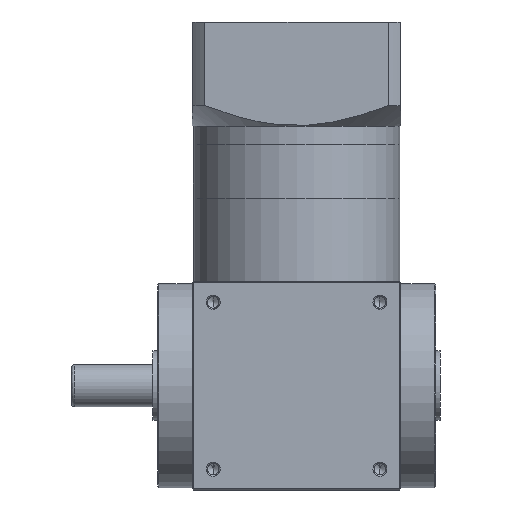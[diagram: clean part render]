
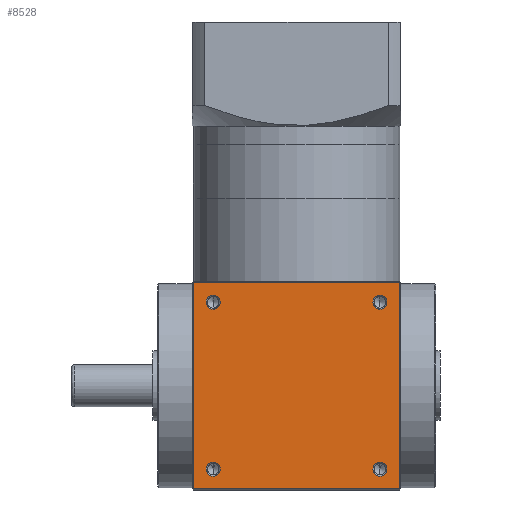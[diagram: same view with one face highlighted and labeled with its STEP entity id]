
A CAD part, front view. The second image highlights one B-rep face of the part: STEP entity #8528.
In plain terms, the highlighted planar face has unit normal (0, -1, 0).
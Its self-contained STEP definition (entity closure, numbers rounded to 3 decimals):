
#316 = FACE_BOUND ( 'NONE', #44070, .T. ) ;
#662 = DIRECTION ( 'NONE',  ( 0., 1., 0. ) ) ;
#1021 = DIRECTION ( 'NONE',  ( 0., -1., 0. ) ) ;
#1530 = CIRCLE ( 'NONE', #16878, 3.025 ) ;
#1556 = CIRCLE ( 'NONE', #40191, 3.025 ) ;
#1783 = CARTESIAN_POINT ( 'NONE',  ( -45., -45., 0.5 ) ) ;
#2081 = AXIS2_PLACEMENT_3D ( 'NONE', #19904, #662, #27628 ) ;
#2112 = CIRCLE ( 'NONE', #26325, 3.025 ) ;
#2722 = ORIENTED_EDGE ( 'NONE', *, *, #20294, .F. ) ;
#2896 = DIRECTION ( 'NONE',  ( 0., 0., 1. ) ) ;
#2918 = ORIENTED_EDGE ( 'NONE', *, *, #45490, .F. ) ;
#2983 = EDGE_CURVE ( 'NONE', #49617, #35890, #25745, .T. ) ;
#3404 = ORIENTED_EDGE ( 'NONE', *, *, #28914, .F. ) ;
#4040 = ORIENTED_EDGE ( 'NONE', *, *, #30516, .F. ) ;
#4056 = VECTOR ( 'NONE', #26563, 1000. ) ;
#5632 = VERTEX_POINT ( 'NONE', #25705 ) ;
#6040 = CIRCLE ( 'NONE', #41959, 3.025 ) ;
#6545 = AXIS2_PLACEMENT_3D ( 'NONE', #40460, #17417, #44368 ) ;
#6594 = CARTESIAN_POINT ( 'NONE',  ( -44.5, -45., 90. ) ) ;
#7396 = DIRECTION ( 'NONE',  ( 0., -1., 0. ) ) ;
#8161 = CARTESIAN_POINT ( 'NONE',  ( -36., -45., 9. ) ) ;
#8528 = ADVANCED_FACE ( 'NONE', ( #316, #20814, #12990, #10573, #40084 ), #42949, .F. ) ;
#9222 = CARTESIAN_POINT ( 'NONE',  ( 36., -45., 81. ) ) ;
#9758 = CARTESIAN_POINT ( 'NONE',  ( 36., -45., 5.975 ) ) ;
#10573 = FACE_BOUND ( 'NONE', #27976, .T. ) ;
#10672 = LINE ( 'NONE', #49576, #49220 ) ;
#10840 = LINE ( 'NONE', #1783, #21074 ) ;
#11243 = CARTESIAN_POINT ( 'NONE',  ( 36., -45., 12.025 ) ) ;
#12050 = DIRECTION ( 'NONE',  ( 0., 0., -1. ) ) ;
#12990 = FACE_BOUND ( 'NONE', #18905, .T. ) ;
#13141 = DIRECTION ( 'NONE',  ( 0., 0., -1. ) ) ;
#14209 = VECTOR ( 'NONE', #2896, 1000. ) ;
#14474 = AXIS2_PLACEMENT_3D ( 'NONE', #8161, #35113, #12050 ) ;
#14636 = CARTESIAN_POINT ( 'NONE',  ( -44.5, -45., 0.5 ) ) ;
#14705 = VERTEX_POINT ( 'NONE', #33972 ) ;
#16878 = AXIS2_PLACEMENT_3D ( 'NONE', #19776, #46662, #23631 ) ;
#17417 = DIRECTION ( 'NONE',  ( 0., -1., 0. ) ) ;
#17759 = AXIS2_PLACEMENT_3D ( 'NONE', #9222, #36174, #13141 ) ;
#17894 = ORIENTED_EDGE ( 'NONE', *, *, #45228, .F. ) ;
#18230 = ORIENTED_EDGE ( 'NONE', *, *, #40451, .F. ) ;
#18788 = EDGE_LOOP ( 'NONE', ( #2918, #42712 ) ) ;
#18819 = DIRECTION ( 'NONE',  ( 1., 0., 0. ) ) ;
#18905 = EDGE_LOOP ( 'NONE', ( #37171, #3404 ) ) ;
#19254 = DIRECTION ( 'NONE',  ( 0., -1., 0. ) ) ;
#19776 = CARTESIAN_POINT ( 'NONE',  ( 36., -45., 81. ) ) ;
#19904 = CARTESIAN_POINT ( 'NONE',  ( -45., -45., 90. ) ) ;
#20136 = EDGE_CURVE ( 'NONE', #47331, #42045, #24533, .T. ) ;
#20294 = EDGE_CURVE ( 'NONE', #30266, #28595, #24472, .T. ) ;
#20401 = EDGE_CURVE ( 'NONE', #26452, #14705, #1530, .T. ) ;
#20709 = ORIENTED_EDGE ( 'NONE', *, *, #33923, .F. ) ;
#20785 = CARTESIAN_POINT ( 'NONE',  ( 36., -45., 77.975 ) ) ;
#20814 = FACE_BOUND ( 'NONE', #18788, .T. ) ;
#21074 = VECTOR ( 'NONE', #32629, 1000. ) ;
#21771 = DIRECTION ( 'NONE',  ( 0., -1., 0. ) ) ;
#22891 = CARTESIAN_POINT ( 'NONE',  ( 44.5, -45., 90. ) ) ;
#23059 = AXIS2_PLACEMENT_3D ( 'NONE', #30468, #7396, #34384 ) ;
#23494 = ORIENTED_EDGE ( 'NONE', *, *, #2983, .F. ) ;
#23631 = DIRECTION ( 'NONE',  ( 0., 0., -1. ) ) ;
#24127 = CARTESIAN_POINT ( 'NONE',  ( -36., -45., 81. ) ) ;
#24472 = LINE ( 'NONE', #6594, #14209 ) ;
#24533 = CIRCLE ( 'NONE', #6545, 3.025 ) ;
#25705 = CARTESIAN_POINT ( 'NONE',  ( -36., -45., 77.975 ) ) ;
#25745 = LINE ( 'NONE', #22891, #4056 ) ;
#26325 = AXIS2_PLACEMENT_3D ( 'NONE', #24127, #1021, #27946 ) ;
#26452 = VERTEX_POINT ( 'NONE', #20785 ) ;
#26563 = DIRECTION ( 'NONE',  ( 0., 0., -1. ) ) ;
#27445 = ORIENTED_EDGE ( 'NONE', *, *, #20401, .F. ) ;
#27628 = DIRECTION ( 'NONE',  ( 0., 0., 1. ) ) ;
#27696 = EDGE_CURVE ( 'NONE', #28595, #49617, #10672, .T. ) ;
#27946 = DIRECTION ( 'NONE',  ( 0., 0., -1. ) ) ;
#27976 = EDGE_LOOP ( 'NONE', ( #17894, #20709 ) ) ;
#28595 = VERTEX_POINT ( 'NONE', #29435 ) ;
#28914 = EDGE_CURVE ( 'NONE', #42045, #47331, #39286, .T. ) ;
#29435 = CARTESIAN_POINT ( 'NONE',  ( -44.5, -45., 89.5 ) ) ;
#29757 = CARTESIAN_POINT ( 'NONE',  ( -36., -45., 84.025 ) ) ;
#29809 = CARTESIAN_POINT ( 'NONE',  ( 44.5, -45., 0.5 ) ) ;
#30114 = VERTEX_POINT ( 'NONE', #44484 ) ;
#30266 = VERTEX_POINT ( 'NONE', #14636 ) ;
#30398 = EDGE_LOOP ( 'NONE', ( #4040, #23494, #49473, #2722 ) ) ;
#30468 = CARTESIAN_POINT ( 'NONE',  ( 36., -45., 9. ) ) ;
#30516 = EDGE_CURVE ( 'NONE', #35890, #30266, #10840, .T. ) ;
#31271 = CARTESIAN_POINT ( 'NONE',  ( -36., -45., 5.975 ) ) ;
#32629 = DIRECTION ( 'NONE',  ( -1., 0., 0. ) ) ;
#33923 = EDGE_CURVE ( 'NONE', #30114, #43056, #42493, .T. ) ;
#33972 = CARTESIAN_POINT ( 'NONE',  ( 36., -45., 84.025 ) ) ;
#34384 = DIRECTION ( 'NONE',  ( 0., 0., -1. ) ) ;
#35113 = DIRECTION ( 'NONE',  ( 0., -1., 0. ) ) ;
#35890 = VERTEX_POINT ( 'NONE', #29809 ) ;
#36174 = DIRECTION ( 'NONE',  ( 0., -1., 0. ) ) ;
#37171 = ORIENTED_EDGE ( 'NONE', *, *, #20136, .F. ) ;
#39286 = CIRCLE ( 'NONE', #23059, 3.025 ) ;
#40084 = FACE_OUTER_BOUND ( 'NONE', #30398, .T. ) ;
#40191 = AXIS2_PLACEMENT_3D ( 'NONE', #44859, #21771, #48689 ) ;
#40254 = EDGE_CURVE ( 'NONE', #45777, #5632, #6040, .T. ) ;
#40451 = EDGE_CURVE ( 'NONE', #14705, #26452, #48816, .T. ) ;
#40460 = CARTESIAN_POINT ( 'NONE',  ( 36., -45., 9. ) ) ;
#41959 = AXIS2_PLACEMENT_3D ( 'NONE', #42289, #19254, #46168 ) ;
#42045 = VERTEX_POINT ( 'NONE', #11243 ) ;
#42289 = CARTESIAN_POINT ( 'NONE',  ( -36., -45., 81. ) ) ;
#42493 = CIRCLE ( 'NONE', #14474, 3.025 ) ;
#42712 = ORIENTED_EDGE ( 'NONE', *, *, #40254, .F. ) ;
#42949 = PLANE ( 'NONE',  #2081 ) ;
#43056 = VERTEX_POINT ( 'NONE', #31271 ) ;
#44070 = EDGE_LOOP ( 'NONE', ( #27445, #18230 ) ) ;
#44368 = DIRECTION ( 'NONE',  ( 0., 0., -1. ) ) ;
#44484 = CARTESIAN_POINT ( 'NONE',  ( -36., -45., 12.025 ) ) ;
#44805 = CARTESIAN_POINT ( 'NONE',  ( 44.5, -45., 89.5 ) ) ;
#44859 = CARTESIAN_POINT ( 'NONE',  ( -36., -45., 9. ) ) ;
#45228 = EDGE_CURVE ( 'NONE', #43056, #30114, #1556, .T. ) ;
#45490 = EDGE_CURVE ( 'NONE', #5632, #45777, #2112, .T. ) ;
#45777 = VERTEX_POINT ( 'NONE', #29757 ) ;
#46168 = DIRECTION ( 'NONE',  ( 0., 0., -1. ) ) ;
#46662 = DIRECTION ( 'NONE',  ( 0., -1., 0. ) ) ;
#47331 = VERTEX_POINT ( 'NONE', #9758 ) ;
#48689 = DIRECTION ( 'NONE',  ( 0., 0., -1. ) ) ;
#48816 = CIRCLE ( 'NONE', #17759, 3.025 ) ;
#49220 = VECTOR ( 'NONE', #18819, 1000. ) ;
#49473 = ORIENTED_EDGE ( 'NONE', *, *, #27696, .F. ) ;
#49576 = CARTESIAN_POINT ( 'NONE',  ( -45., -45., 89.5 ) ) ;
#49617 = VERTEX_POINT ( 'NONE', #44805 ) ;
